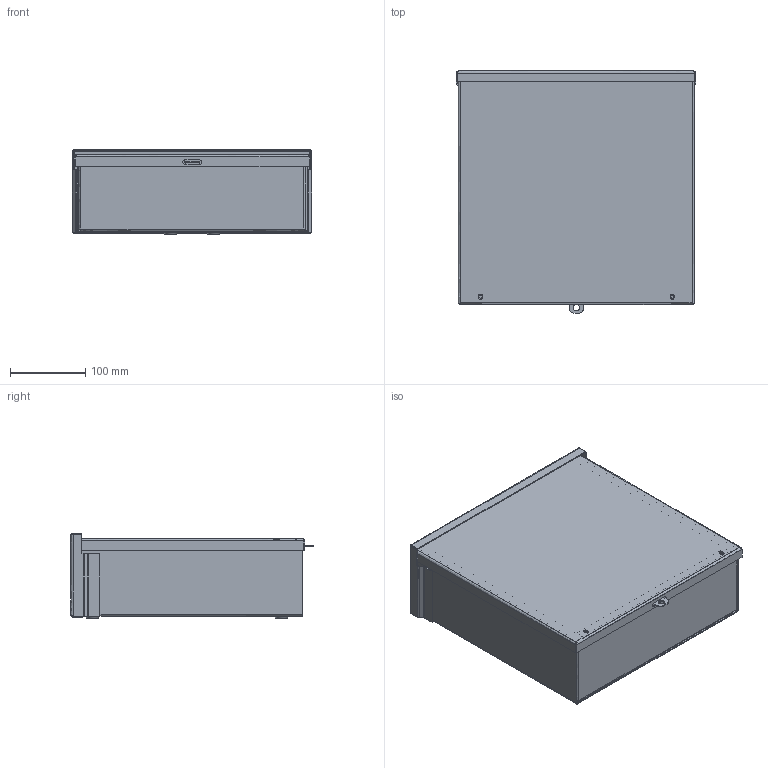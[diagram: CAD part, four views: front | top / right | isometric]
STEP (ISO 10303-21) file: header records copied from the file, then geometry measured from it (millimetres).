
FILE_DESCRIPTION((''),'2;1');
FILE_NAME('D:\scratch\ideas\a12r124nk.stp','2006-12-14T10:18:56',( 'User'),('SDRC'),'I-DEAS Master Series 9','UNIX','Yes');
FILE_SCHEMA(('AUTOMOTIVE_DESIGN { 1 0 10303 214 0 1 1 1 }'));
Length unit declared in the file: inch
Products named in the file (7): 13491; 3rsc_wmt_body_12x12x4_nk; 3rsc_top_12x4; 3rsc_bottom_12x4_nk; 3rsc_body_12x12x4; 3rsc_cover_12x12; 78124001
Assembly tree (6 placements, depth 3):
  13491
    3rsc_wmt_body_12x12x4_nk
      3rsc_top_12x4
      3rsc_bottom_12x4_nk
      3rsc_body_12x12x4
    3rsc_cover_12x12
    78124001
Bounding box: 317.5 x 320.75 x 113.03 mm (x, y, z)
Volume: 500272.9 mm3; surface area: 723730 mm2
Topology: 5 solids, 5 shells, 239 faces, 615 edges, 392 vertices
Faces by surface type: bspline 239
Entity records: 7574 total; most frequent: CARTESIAN_POINT 3603, ORIENTED_EDGE 1230, EDGE_CURVE 615, VERTEX_POINT 392, QUASI_UNIFORM_CURVE 308, EDGE_LOOP 273, FACE_OUTER_BOUND 239, ADVANCED_FACE 239
